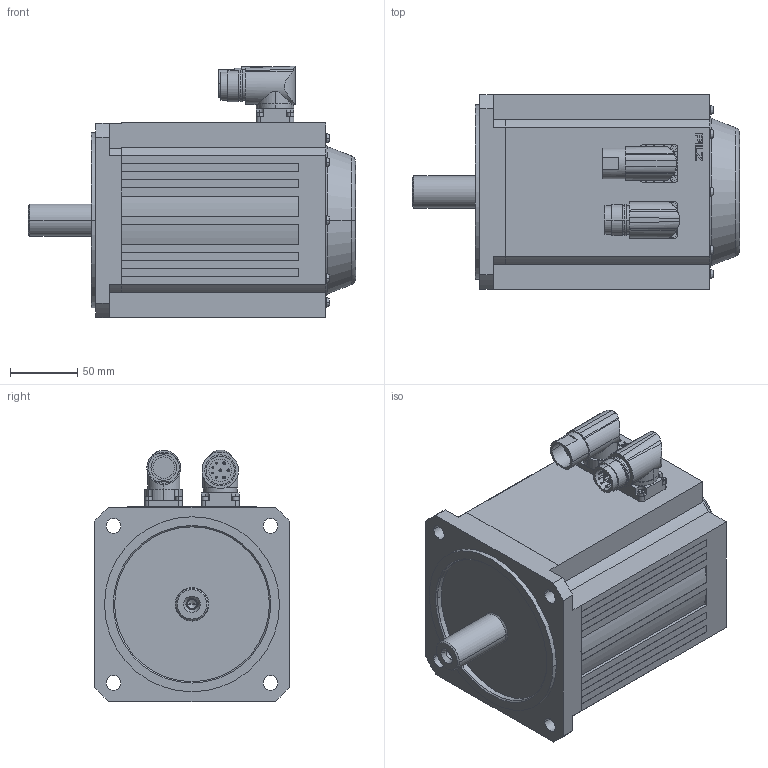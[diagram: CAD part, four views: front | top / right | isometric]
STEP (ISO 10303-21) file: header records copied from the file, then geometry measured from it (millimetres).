
FILE_DESCRIPTION((''),'2;1');
FILE_NAME('2024988','2017-09-05T',('smayer'),(''),'PRO/ENGINEER BY PARAMETRIC TECHNOLOGY CORPORATION, 2015110','PRO/ENGINEER BY PARAMETRIC TECHNOLOGY CORPORATION, 2015110','');
FILE_SCHEMA(('AUTOMOTIVE_DESIGN { 1 0 10303 214 1 1 1 1 }'));
Length unit declared in the file: millimetre
Products named in the file (1): 2024988
Bounding box: 243 x 145 x 187 mm (x, y, z)
Surface area: 171300 mm2 (no closed solid volume)
Topology: 0 solids, 17 shells, 476 faces, 1357 edges, 916 vertices
Faces by surface type: plane 288, cylinder 130, cone 34, bspline 20, torus 4
Entity records: 24324 total; most frequent: CARTESIAN_POINT 4355, DIRECTION 2522, ORIENTED_EDGE 2464, PRESENTATION_STYLE_ASSIGNMENT 1833, STYLED_ITEM 1357, CURVE_STYLE 1356, EDGE_CURVE 1350, VERTEX_POINT 906
